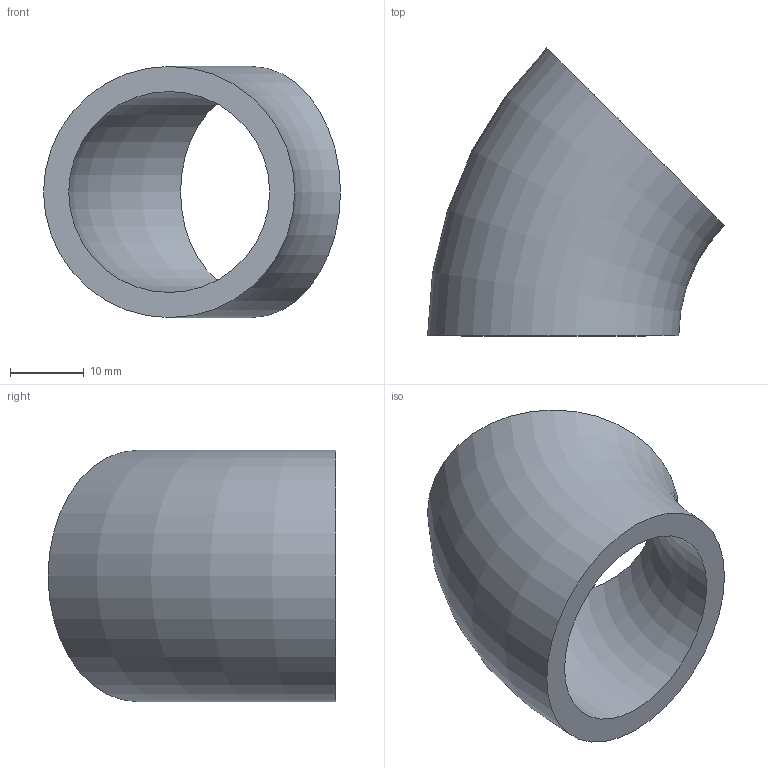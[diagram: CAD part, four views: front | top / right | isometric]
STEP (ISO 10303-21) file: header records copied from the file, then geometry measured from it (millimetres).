
FILE_DESCRIPTION(/* description */ (''),/* implementation_level */ '2;1');
FILE_NAME(/* name */ 'C:\Users\D\Documents\Inventor\HP\JIS\配管\エルボ ロング 45°\Sch40\Elbow45-long-25A-Sch40.stp',/* time_stamp */ '2022-06-08T17:01:54+09:00',/* author */ ('D'),/* organization */ (''),/* preprocessor_version */ 'ST-DEVELOPER v18',/* originating_system */ 'Autodesk Inventor 2020',/* authorisation */ '');
FILE_SCHEMA (('AUTOMOTIVE_DESIGN { 1 0 10303 214 3 1 1 }'));
Length unit declared in the file: millimetre
Products named in the file (1): Elbow-long-90-15A-SGP
Bounding box: 40.18 x 38.96 x 34 mm (x, y, z)
Volume: 9780.6 mm3; surface area: 6407 mm2
Topology: 1 solids, 1 shells, 4 faces, 10 edges, 8 vertices
Faces by surface type: torus 2, plane 2
Entity records: 181 total; most frequent: DIRECTION 30, CARTESIAN_POINT 23, ORIENTED_EDGE 20, AXIS2_PLACEMENT_3D 15, CIRCLE 10, EDGE_CURVE 10, VERTEX_POINT 8, EDGE_LOOP 6
